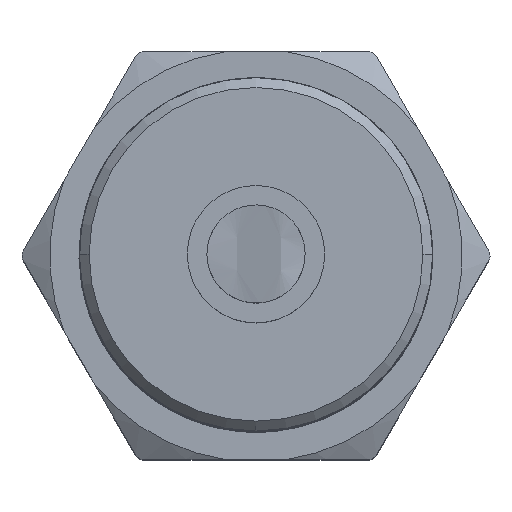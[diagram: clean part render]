
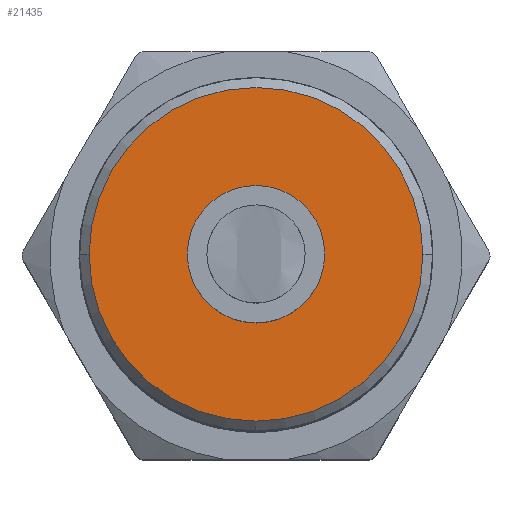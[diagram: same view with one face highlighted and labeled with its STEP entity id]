
A CAD part, top view. The second image highlights one B-rep face of the part: STEP entity #21435.
In plain terms, the highlighted planar face has unit normal (0, 0, 1).
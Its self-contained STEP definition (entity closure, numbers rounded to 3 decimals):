
#8888=CARTESIAN_POINT('',(0.,0.,80.));
#8889=DIRECTION('',(0.,0.,1.));
#8890=DIRECTION('',(1.,0.,0.));
#8891=AXIS2_PLACEMENT_3D('',#8888,#8889,#8890);
#8893=CARTESIAN_POINT('',(0.,0.,80.));
#8894=DIRECTION('',(0.,0.,1.));
#8895=DIRECTION('',(-1.,0.,0.));
#8896=AXIS2_PLACEMENT_3D('',#8893,#8894,#8895);
#8898=CARTESIAN_POINT('',(0.,0.,80.));
#8899=DIRECTION('',(0.,0.,1.));
#8900=DIRECTION('',(-1.,0.,0.));
#8901=AXIS2_PLACEMENT_3D('',#8898,#8899,#8900);
#8903=CARTESIAN_POINT('',(0.,0.,80.));
#8904=DIRECTION('',(0.,0.,1.));
#8905=DIRECTION('',(1.,0.,0.));
#8906=AXIS2_PLACEMENT_3D('',#8903,#8904,#8905);
#8990=CARTESIAN_POINT('',(-8.5,0.,
80.));
#8991=VERTEX_POINT('',#8990);
#8992=CARTESIAN_POINT('',(8.5,0.,80.));
#8993=VERTEX_POINT('',#8992);
#9429=CARTESIAN_POINT('',(-3.5,0.,80.));
#9430=CARTESIAN_POINT('',(3.5,0.,80.));
#9431=VERTEX_POINT('',#9429);
#9432=VERTEX_POINT('',#9430);
#21420=CARTESIAN_POINT('',(0.,0.,80.));
#21421=DIRECTION('',(0.,0.,1.));
#21422=DIRECTION('',(1.,0.,0.));
#21423=AXIS2_PLACEMENT_3D('',#21420,#21421,#21422);
#21424=PLANE('',#21423);
#21425=ORIENTED_EDGE('',*,*,#21414,.F.);
#21426=ORIENTED_EDGE('',*,*,#21399,.F.);
#21427=EDGE_LOOP('',(#21425,#21426));
#21428=FACE_OUTER_BOUND('',#21427,.F.);
#21430=ORIENTED_EDGE('',*,*,#21429,.T.);
#21432=ORIENTED_EDGE('',*,*,#21431,.T.);
#21433=EDGE_LOOP('',(#21430,#21432));
#21434=FACE_BOUND('',#21433,.F.);
#8892=CIRCLE('',#8891,8.5);
#8897=CIRCLE('',#8896,8.5);
#8902=CIRCLE('',#8901,3.5);
#8907=CIRCLE('',#8906,3.5);
#21399=EDGE_CURVE('',#8991,#8993,#8897,.T.);
#21414=EDGE_CURVE('',#8993,#8991,#8892,.T.);
#21429=EDGE_CURVE('',#9431,#9432,#8902,.T.);
#21431=EDGE_CURVE('',#9432,#9431,#8907,.T.);
#21435=ADVANCED_FACE('',(#21428,#21434),#21424,.T.);
